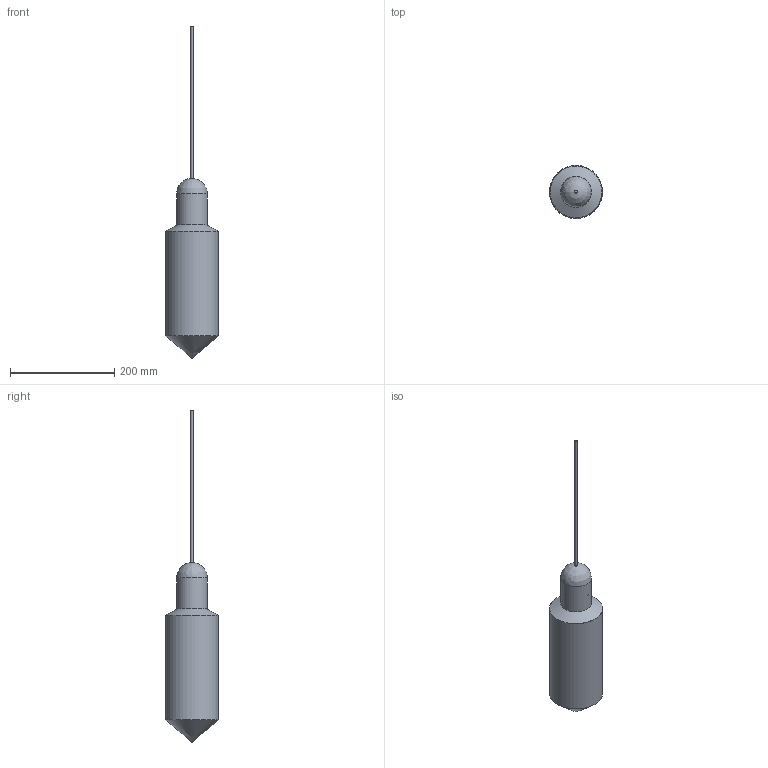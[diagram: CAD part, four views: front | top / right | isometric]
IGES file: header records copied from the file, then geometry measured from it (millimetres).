
Global section: file name: Niche - Dart - Placebo Pendant; native system: unknown; preprocessor: unknown; author: unknown; organization: unknown; date: 20250109.102839; units: inch
Bounding box: 101.6 x 101.55 x 636.19 mm (x, y, z)
Volume: 175601 mm3; surface area: 214761.5 mm2
Topology: 5 solids, 5 shells, 103 faces, 285 edges, 190 vertices
Faces by surface type: bspline 103
